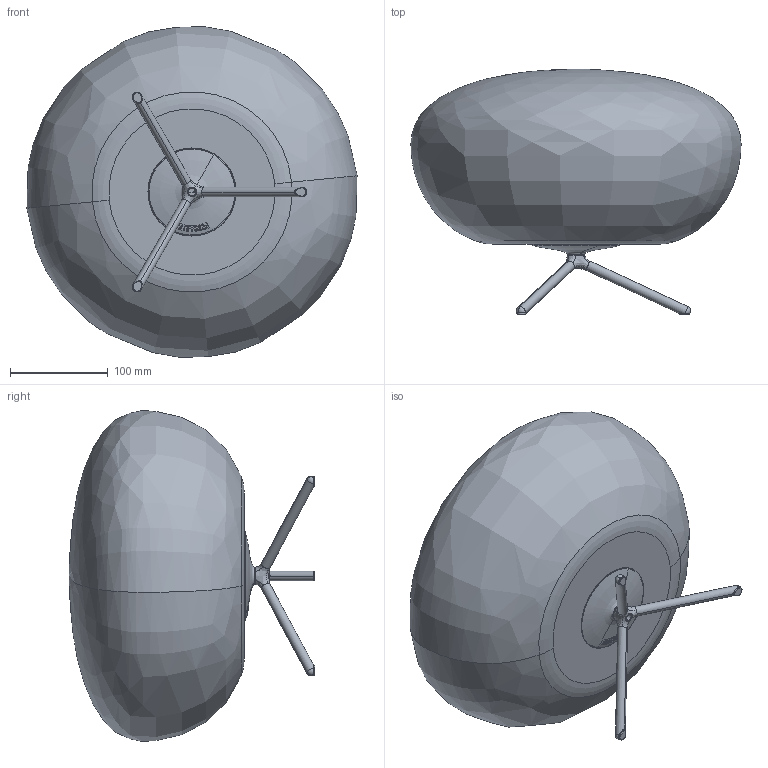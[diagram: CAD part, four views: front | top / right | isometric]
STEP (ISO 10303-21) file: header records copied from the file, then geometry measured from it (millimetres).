
FILE_DESCRIPTION (( 'STEP AP214' ), '1' );
FILE_NAME ('244_2_T_PL_2D.STEP', '2021-04-29T06:47:40', ( '' ), ( '' ), 'SwSTEP 2.0', 'SolidWorks 2021', '' );
FILE_SCHEMA (( 'AUTOMOTIVE_DESIGN' ));
Length unit declared in the file: millimetre
Products named in the file (1): 244_2_T_PL_2D
Bounding box: 337.31 x 250.75 x 338.07 mm (x, y, z)
Volume: 1140863.4 mm3; surface area: 556658.4 mm2
Topology: 7 solids, 7 shells, 545 faces, 1302 edges, 746 vertices
Faces by surface type: bspline 162, plane 141, cylinder 124, torus 52, sphere 40, cone 26
Entity records: 33434 total; most frequent: CARTESIAN_POINT 16367, ORIENTED_EDGE 2500, DIRECTION 1995, EDGE_CURVE 1250, AXIS2_PLACEMENT_3D 822, VERTEX_POINT 746, EDGE_LOOP 578, UNCERTAINTY_MEASURE_WITH_UNIT 554
